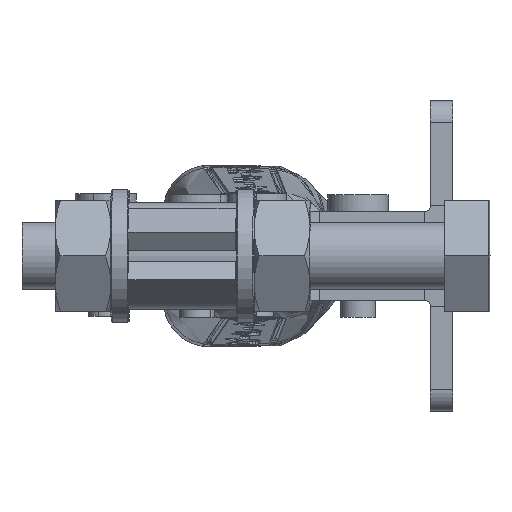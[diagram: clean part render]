
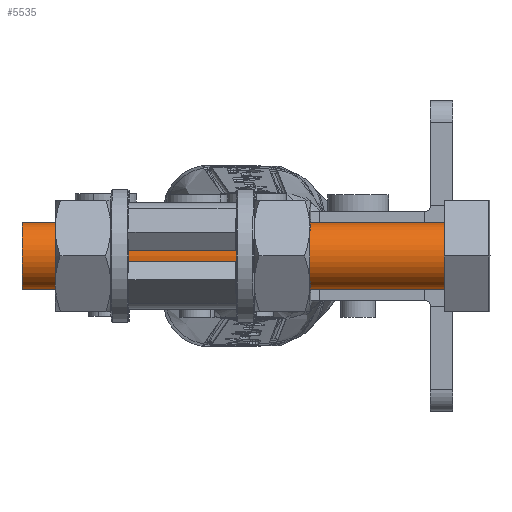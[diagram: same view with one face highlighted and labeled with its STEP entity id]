
A CAD part, left-side view. The second image highlights one B-rep face of the part: STEP entity #5535.
In plain terms, the highlighted cylindrical face has radius 3 mm (diameter 6 mm), a partial arc.
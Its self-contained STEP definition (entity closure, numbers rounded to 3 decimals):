
#2066 = DIRECTION ( 'NONE',  ( 0., -1., 0. ) ) ;
#3493 = CARTESIAN_POINT ( 'NONE',  ( 0., 0., 3. ) ) ;
#3819 = EDGE_CURVE ( 'NONE', #25182, #11294, #30938, .T. ) ;
#4096 = CYLINDRICAL_SURFACE ( 'NONE', #11413, 3. ) ;
#4708 = AXIS2_PLACEMENT_3D ( 'NONE', #9365, #28344, #12121 ) ;
#5535 = ADVANCED_FACE ( 'NONE', ( #18584 ), #4096, .T. ) ;
#6302 = VECTOR ( 'NONE', #21969, 1000. ) ;
#6855 = VERTEX_POINT ( 'NONE', #33878 ) ;
#7780 = DIRECTION ( 'NONE',  ( 0., 1., 0. ) ) ;
#8422 = CARTESIAN_POINT ( 'NONE',  ( 0., -60., -3. ) ) ;
#8812 = DIRECTION ( 'NONE',  ( 0., 1., 0. ) ) ;
#8834 = EDGE_LOOP ( 'NONE', ( #25671, #29522, #33342, #22911 ) ) ;
#9365 = CARTESIAN_POINT ( 'NONE',  ( 0., 0., 0. ) ) ;
#11294 = VERTEX_POINT ( 'NONE', #34529 ) ;
#11413 = AXIS2_PLACEMENT_3D ( 'NONE', #32089, #7780, #21341 ) ;
#12121 = DIRECTION ( 'NONE',  ( 0., 0., 1. ) ) ;
#12645 = EDGE_CURVE ( 'NONE', #21427, #25182, #26893, .T. ) ;
#16908 = CARTESIAN_POINT ( 'NONE',  ( 0., -60., 3. ) ) ;
#17442 = AXIS2_PLACEMENT_3D ( 'NONE', #18382, #2066, #21095 ) ;
#18382 = CARTESIAN_POINT ( 'NONE',  ( 0., -38., 0. ) ) ;
#18584 = FACE_OUTER_BOUND ( 'NONE', #8834, .T. ) ;
#19681 = VECTOR ( 'NONE', #8812, 1000. ) ;
#20562 = CARTESIAN_POINT ( 'NONE',  ( 0., -38., 3. ) ) ;
#21095 = DIRECTION ( 'NONE',  ( -1., 0., 0. ) ) ;
#21341 = DIRECTION ( 'NONE',  ( 0., 0., 1. ) ) ;
#21427 = VERTEX_POINT ( 'NONE', #20562 ) ;
#21969 = DIRECTION ( 'NONE',  ( 0., 1., 0. ) ) ;
#22911 = ORIENTED_EDGE ( 'NONE', *, *, #3819, .T. ) ;
#24958 = EDGE_CURVE ( 'NONE', #21427, #6855, #34398, .T. ) ;
#25182 = VERTEX_POINT ( 'NONE', #3493 ) ;
#25671 = ORIENTED_EDGE ( 'NONE', *, *, #26169, .F. ) ;
#26169 = EDGE_CURVE ( 'NONE', #6855, #11294, #27993, .T. ) ;
#26893 = LINE ( 'NONE', #16908, #19681 ) ;
#27993 = LINE ( 'NONE', #8422, #6302 ) ;
#28344 = DIRECTION ( 'NONE',  ( 0., -1., 0. ) ) ;
#29522 = ORIENTED_EDGE ( 'NONE', *, *, #24958, .F. ) ;
#30938 = CIRCLE ( 'NONE', #4708, 3. ) ;
#32089 = CARTESIAN_POINT ( 'NONE',  ( 0., -60., 0. ) ) ;
#33342 = ORIENTED_EDGE ( 'NONE', *, *, #12645, .T. ) ;
#33878 = CARTESIAN_POINT ( 'NONE',  ( 0., -38., -3. ) ) ;
#34398 = CIRCLE ( 'NONE', #17442, 3. ) ;
#34529 = CARTESIAN_POINT ( 'NONE',  ( 0., 0., -3. ) ) ;
